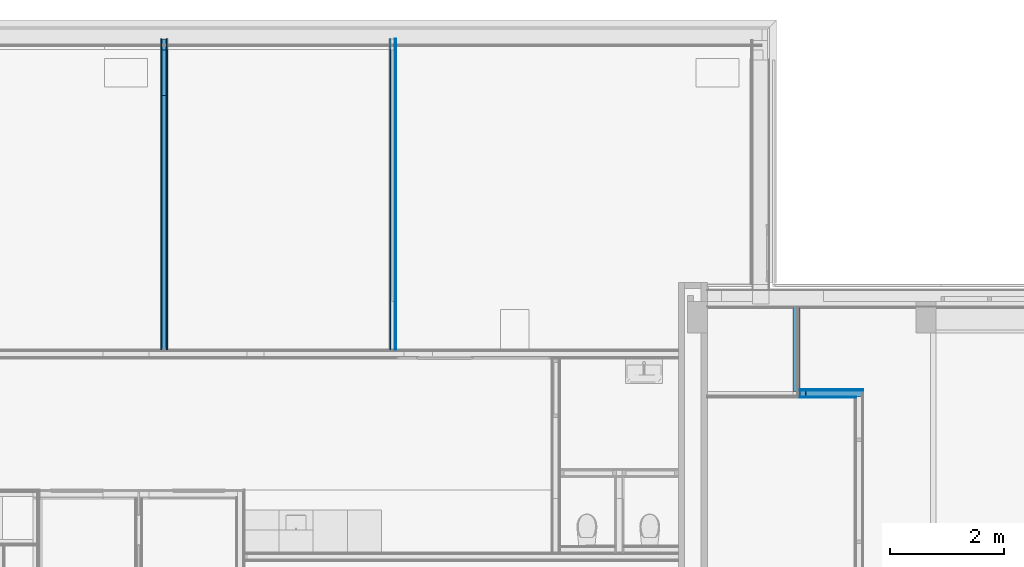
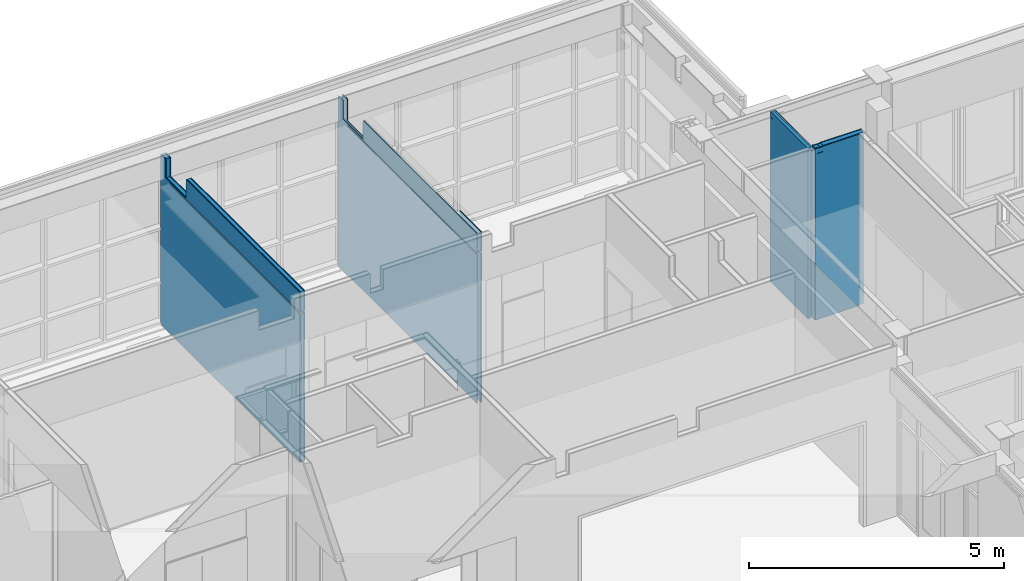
# One storey, part 51 of 109: 15 building element parts, 4 elements without a shape of their own.
"""IFC2X3 building model written with IfcOpenShell, lengths in millimetres."""

from ifc_helpers import new_model, entity, si_unit, converted_unit, derived_unit, money_unit, direction, frame, origin_with_axes, place, context, subcontext, project, spatial, faceted_brep, material, type_object, element, aggregate, save


model = new_model("IFC2X3")

# Units and contexts
model_context = context("Model", 3, precision=0.01, world=origin_with_axes(), true_north=direction((0.0, 1.0)))
body_context = subcontext(model_context, "Body", "Model", "MODEL_VIEW")
ifc_project = project(units=[si_unit("LENGTHUNIT", "METRE", prefix="MILLI"), si_unit("AREAUNIT", "SQUARE_METRE"), si_unit("VOLUMEUNIT", "CUBIC_METRE"), converted_unit("PLANEANGLEUNIT", "DEGREE", entity("IfcPlaneAngleMeasure", 0.0174532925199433), si_unit("PLANEANGLEUNIT", "RADIAN"), dimensions=[0, 0, 0, 0, 0, 0, 0]), money_unit("EUR"), converted_unit("TIMEUNIT", "Year", entity("IfcTimeMeasure", 31557600.0), si_unit("TIMEUNIT", "SECOND"), dimensions=[0, 0, 1, 0, 0, 0, 0]), si_unit("MASSUNIT", "GRAM", prefix="KILO"), si_unit("THERMODYNAMICTEMPERATUREUNIT", "DEGREE_CELSIUS"), si_unit("LUMINOUSINTENSITYUNIT", "LUMEN"), si_unit("ENERGYUNIT", "JOULE", prefix="MEGA"), derived_unit("THERMALCONDUCTANCEUNIT", [(si_unit("POWERUNIT", "WATT"), 1), (si_unit("LENGTHUNIT", "METRE"), -1), (si_unit("THERMODYNAMICTEMPERATUREUNIT", "KELVIN"), -1)]), derived_unit("SPECIFICHEATCAPACITYUNIT", [(si_unit("ENERGYUNIT", "JOULE"), 1), (si_unit("MASSUNIT", "GRAM", prefix="KILO"), -1), (si_unit("THERMODYNAMICTEMPERATUREUNIT", "KELVIN"), -1)]), derived_unit("MASSDENSITYUNIT", [(si_unit("MASSUNIT", "GRAM", prefix="KILO"), 1), (si_unit("VOLUMEUNIT", "CUBIC_METRE"), -1)])], contexts=[model_context])

# Site, building, storey
site_placement = place(None, origin_with_axes())
site = spatial("IfcSite", under=ifc_project, at=site_placement, Name="<site naam>", CompositionType="ELEMENT")
building_placement = place(site_placement, origin_with_axes())
building = spatial("IfcBuilding", under=site, at=building_placement, Name="<Naam gebouw>", CompositionType="ELEMENT")
storey_placement = place(building_placement, origin_with_axes())
storey = spatial("IfcBuildingStorey", under=building, at=storey_placement, Name="00 Begane grond", CompositionType="ELEMENT", Elevation=0.0)

# Wall, building element parts
wall_type_1 = type_object("IfcWallType", Name="MS-02 GF 125 ECO DGS/2.75.2.A 125", PredefinedType="NOTDEFINED")
wall_1_placement = place(storey_placement, frame((2666.666666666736, 24596.49775469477, 0.0), z_axis=(0.0, 0.0, 1.0), x_axis=(0.0, -1.0, 0.0)))
wall_1 = element("IfcWall", 1, at=wall_1_placement, inside=storey, type_object=wall_type_1, Name="22_Binnenwand_MS-02")
ifc_material_1 = material(Name="gipsplaat")
building_element_part_1_placement = place(wall_1_placement, origin_with_axes())
building_element_part_1 = element("IfcBuildingElementPart", 2, at=building_element_part_1_placement, material=ifc_material_1, Name="gipsplaat", context=body_context, shape_type="Brep", body=[
    faceted_brep([(196.4977546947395, 50.00000000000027, 4070.0), (196.4977546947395, 62.50000000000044, 4070.0), (0.0, 62.50000000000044, 4070.0), (0.0, 50.00000000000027, 4070.0), (196.4977546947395, 62.49999999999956, 3619.999999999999), (196.4977546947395, 50.00000000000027, 3619.999999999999), (996.4977546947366, 62.49999999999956, 3619.999999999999), (996.4977546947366, 62.50000000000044, 4070.0), (5446.497754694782, 62.5, 4070.0), (5446.497774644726, 62.5, 3600.0), (370.9977554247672, 62.49999999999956, 3600.0), (370.9977554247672, 62.49999999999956, 3560.0), (5446.497774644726, 62.5, 3560.0), (5446.497754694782, 62.49999999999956, 0.0), (0.0, 62.5, 0.0), (0.0, 49.99999999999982, 0.0), (5446.497754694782, 49.99999999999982, 0.0), (5446.497774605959, 50.00000000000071, 3560.0), (370.9977554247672, 50.00000000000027, 3560.0), (370.9977554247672, 50.00000000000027, 3600.0), (5446.497774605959, 49.99999999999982, 3600.0), (5446.497754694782, 49.99999999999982, 4070.0), (996.4977546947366, 50.00000000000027, 4070.0), (996.4977546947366, 50.00000000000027, 3619.999999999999)], [[[0, 1, 2, 3]], [[4, 1, 0, 5]], [[6, 7, 8, 9, 10, 11, 12, 13, 14, 2, 1, 4]], [[3, 2, 14, 15]], [[5, 0, 3, 15, 16, 17, 18, 19, 20, 21, 22, 23]], [[6, 4, 5, 23]], [[22, 7, 6, 23]], [[7, 22, 21, 8]], [[21, 20, 9, 8]], [[19, 10, 9, 20]], [[18, 11, 10, 19]], [[17, 12, 11, 18]], [[13, 12, 17, 16]], [[14, 13, 16, 15]]]),
])
building_element_part_2_placement = place(wall_1_placement, origin_with_axes())
building_element_part_2 = element("IfcBuildingElementPart", 3, at=building_element_part_2_placement, material=ifc_material_1, Name="gipsplaat", context=body_context, shape_type="Brep", body=[
    faceted_brep([(196.4977546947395, 37.50000000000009, 4070.0), (196.4977546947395, 50.00000000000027, 4070.0), (0.0, 50.00000000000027, 4070.0), (0.0, 37.50000000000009, 4070.0), (196.4977546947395, 50.00000000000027, 3619.999999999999), (196.4977546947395, 37.50000000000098, 3619.999999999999), (996.4977546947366, 50.00000000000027, 3619.999999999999), (996.4977546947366, 50.00000000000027, 4070.0), (5446.497754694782, 49.99999999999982, 4070.0), (5446.497774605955, 49.99999999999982, 3600.0), (370.9977554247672, 50.00000000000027, 3600.0), (370.9977554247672, 50.00000000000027, 3560.0), (5446.497774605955, 50.00000000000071, 3560.0), (5446.497754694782, 49.99999999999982, 0.0), (0.0, 49.99999999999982, 0.0), (0.0, 37.50000000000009, 0.0), (5446.497754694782, 37.49999999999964, 0.0), (5446.497774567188, 37.49999999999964, 3560.0), (370.9977554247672, 37.50000000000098, 3560.0), (370.9977554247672, 37.50000000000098, 3600.0), (5446.497774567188, 37.49999999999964, 3600.0), (5446.497754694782, 37.50000000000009, 4070.0), (996.4977546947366, 37.50000000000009, 4070.0), (996.4977546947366, 37.50000000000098, 3619.999999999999)], [[[0, 1, 2, 3]], [[4, 1, 0, 5]], [[6, 7, 8, 9, 10, 11, 12, 13, 14, 2, 1, 4]], [[3, 2, 14, 15]], [[5, 0, 3, 15, 16, 17, 18, 19, 20, 21, 22, 23]], [[6, 4, 5, 23]], [[22, 7, 6, 23]], [[7, 22, 21, 8]], [[21, 20, 9, 8]], [[19, 10, 9, 20]], [[18, 11, 10, 19]], [[17, 12, 11, 18]], [[13, 12, 17, 16]], [[14, 13, 16, 15]]]),
])
building_element_part_3_placement = place(wall_1_placement, origin_with_axes())
building_element_part_3 = element("IfcBuildingElementPart", 4, at=building_element_part_3_placement, material=ifc_material_1, Name="gipsplaat", context=body_context, shape_type="Brep", body=[
    faceted_brep([(196.4977546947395, -62.49999999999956, 4070.0), (196.4977546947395, -49.99999999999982, 4070.0), (0.0, -49.99999999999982, 4070.0), (0.0, -62.49999999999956, 4070.0), (196.4977546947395, -49.99999999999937, 3619.999999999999), (196.4977546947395, -62.50000000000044, 3619.999999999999), (996.4977546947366, -49.99999999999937, 3619.999999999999), (996.4977546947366, -49.99999999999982, 4070.0), (5446.497754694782, -49.99999999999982, 4070.0), (5446.497774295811, -49.99999999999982, 3600.0), (370.9977554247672, -49.99999999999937, 3600.0), (370.9977554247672, -49.99999999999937, 3560.0), (5446.497774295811, -50.00000000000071, 3560.0), (5446.497754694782, -50.00000000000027, 0.0), (0.0, -49.99999999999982, 0.0), (0.0, -62.5, 0.0), (5446.497754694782, -62.50000000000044, 0.0), (5446.497774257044, -62.5, 3560.0), (370.9977554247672, -62.50000000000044, 3560.0), (370.9977554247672, -62.50000000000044, 3600.0), (5446.497774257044, -62.5, 3600.0), (5446.497754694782, -62.5, 4070.0), (996.4977546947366, -62.49999999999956, 4070.0), (996.4977546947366, -62.50000000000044, 3619.999999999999)], [[[0, 1, 2, 3]], [[4, 1, 0, 5]], [[6, 7, 8, 9, 10, 11, 12, 13, 14, 2, 1, 4]], [[3, 2, 14, 15]], [[5, 0, 3, 15, 16, 17, 18, 19, 20, 21, 22, 23]], [[6, 4, 5, 23]], [[22, 7, 6, 23]], [[7, 22, 21, 8]], [[21, 20, 9, 8]], [[19, 10, 9, 20]], [[18, 11, 10, 19]], [[17, 12, 11, 18]], [[13, 12, 17, 16]], [[14, 13, 16, 15]]]),
])
building_element_part_4_placement = place(wall_1_placement, origin_with_axes())
building_element_part_4 = element("IfcBuildingElementPart", 5, at=building_element_part_4_placement, material=ifc_material_1, Name="gipsplaat", context=body_context, shape_type="Brep", body=[
    faceted_brep([(196.4977546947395, -49.99999999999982, 4070.0), (196.4977546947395, -37.49999999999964, 4070.0), (0.0, -37.49999999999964, 4070.0), (0.0, -49.99999999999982, 4070.0), (196.4977546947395, -37.50000000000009, 3619.999999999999), (196.4977546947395, -49.99999999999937, 3619.999999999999), (996.4977546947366, -37.50000000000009, 3619.999999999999), (996.4977546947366, -37.50000000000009, 4070.0), (5446.497754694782, -37.50000000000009, 4070.0), (5446.497774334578, -37.50000000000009, 3600.0), (370.9977554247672, -37.50000000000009, 3600.0), (370.9977554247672, -37.50000000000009, 3560.0), (5446.497774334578, -37.49999999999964, 3560.0), (5446.497754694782, -37.50000000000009, 0.0), (0.0, -37.50000000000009, 0.0), (0.0, -49.99999999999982, 0.0), (5446.497754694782, -50.00000000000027, 0.0), (5446.497774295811, -50.00000000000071, 3560.0), (370.9977554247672, -49.99999999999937, 3560.0), (370.9977554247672, -49.99999999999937, 3600.0), (5446.497774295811, -50.00000000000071, 3600.0), (5446.497754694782, -49.99999999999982, 4070.0), (996.4977546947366, -49.99999999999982, 4070.0), (996.4977546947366, -49.99999999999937, 3619.999999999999)], [[[0, 1, 2, 3]], [[4, 1, 0, 5]], [[6, 7, 8, 9, 10, 11, 12, 13, 14, 2, 1, 4]], [[3, 2, 14, 15]], [[5, 0, 3, 15, 16, 17, 18, 19, 20, 21, 22, 23]], [[6, 4, 5, 23]], [[22, 7, 6, 23]], [[7, 22, 21, 8]], [[21, 20, 9, 8]], [[19, 10, 9, 20]], [[18, 11, 10, 19]], [[17, 12, 11, 18]], [[13, 12, 17, 16]], [[14, 13, 16, 15]]]),
])
ifc_material_2 = material(Name="isolatie_steenwol LSW")
building_element_part_5_placement = place(wall_1_placement, origin_with_axes())
building_element_part_5 = element("IfcBuildingElementPart", 6, at=building_element_part_5_placement, material=ifc_material_2, Name="isolatie_steenwol LSW", context=body_context, shape_type="Brep", body=[
    faceted_brep([(196.4977546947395, -37.49999999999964, 4070.0), (196.4977546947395, 37.50000000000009, 4070.0), (0.0, 37.50000000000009, 4070.0), (0.0, -37.49999999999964, 4070.0), (196.4977546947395, 37.4999999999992, 3619.999999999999), (196.4977546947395, -37.50000000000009, 3619.999999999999), (996.4977546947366, 37.4999999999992, 3619.999999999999), (996.4977546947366, 37.50000000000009, 4070.0), (5446.497754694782, 37.50000000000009, 4070.0), (5446.497774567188, 37.50000000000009, 3600.0), (370.9977554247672, 37.4999999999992, 3600.0), (370.9977554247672, 37.4999999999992, 3560.0), (5446.497774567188, 37.49999999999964, 3560.0), (5446.497754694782, 37.49999999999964, 0.0), (0.0, 37.50000000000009, 0.0), (0.0, -37.50000000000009, 0.0), (5446.497754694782, -37.50000000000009, 0.0), (5446.497774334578, -37.49999999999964, 3560.0), (370.9977554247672, -37.50000000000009, 3560.0), (370.9977554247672, -37.50000000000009, 3600.0), (5446.497774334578, -37.49999999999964, 3600.0), (5446.497754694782, -37.50000000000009, 4070.0), (996.4977546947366, -37.50000000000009, 4070.0), (996.4977546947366, -37.50000000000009, 3619.999999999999)], [[[0, 1, 2, 3]], [[4, 1, 0, 5]], [[6, 7, 8, 9, 10, 11, 12, 13, 14, 2, 1, 4]], [[3, 2, 14, 15]], [[5, 0, 3, 15, 16, 17, 18, 19, 20, 21, 22, 23]], [[6, 4, 5, 23]], [[22, 7, 6, 23]], [[7, 22, 21, 8]], [[21, 20, 9, 8]], [[19, 10, 9, 20]], [[18, 11, 10, 19]], [[17, 12, 11, 18]], [[13, 12, 17, 16]], [[14, 13, 16, 15]]]),
])
aggregate(wall_1, [building_element_part_1, building_element_part_2, building_element_part_3, building_element_part_4, building_element_part_5])

wall_type_2 = type_object("IfcWallType", Name="MS-04 GF 138 V/100.3.A 113", PredefinedType="NOTDEFINED")
wall_2_placement = place(storey_placement, frame((13675.00000000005, 18423.09602261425, 0.0), z_axis=(0.0, 0.0, 1.0), x_axis=(0.0, 1.0, 0.0)))
wall_2 = element("IfcWall", 7, at=wall_2_placement, inside=storey, type_object=wall_type_2, Name="22_Binnenwand_MS-04")
building_element_part_6_placement = place(wall_2_placement, origin_with_axes())
building_element_part_6 = element("IfcBuildingElementPart", 8, at=building_element_part_6_placement, material=ifc_material_2, Name="isolatie_steenwol LSW", context=body_context, shape_type="Brep", body=[
    faceted_brep([(1476.90398538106, 0.0, 3928.999844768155), (1476.90398538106, -74.99999999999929, 3928.999844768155), (1476.90398538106, -74.99999999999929, 0.0), (1476.90398538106, 0.0, 0.0), (1381.505246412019, -74.99999999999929, 3928.999844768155), (1381.505246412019, 0.0, 3928.999844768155), (1468.505256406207, -74.99999999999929, 3938.499955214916), (1468.505256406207, -74.99999999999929, 4070.0), (0.0, -74.99999999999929, 4070.0), (0.0, -74.99999999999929, 0.0), (1381.505248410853, -74.99999999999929, 3938.499955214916), (0.0, 0.0, 0.0), (0.0, 0.0, 4070.0), (1468.505256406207, 0.0, 4070.0), (1468.505256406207, 0.0, 3938.499955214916), (1381.505248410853, 0.0, 3938.499955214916)], [[[0, 1, 2, 3]], [[4, 1, 0, 5]], [[6, 7, 8, 9, 2, 1, 4, 10]], [[11, 3, 2, 9]], [[5, 0, 3, 11, 12, 13, 14, 15]], [[10, 4, 5, 15]], [[13, 7, 6, 14]], [[7, 13, 12, 8]], [[12, 11, 9, 8]], [[6, 10, 15, 14]]]),
    faceted_brep([(1474.505256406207, -74.99999999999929, 4070.0), (1474.505256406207, -74.99999999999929, 3938.499955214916), (1476.90398538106, -74.99999999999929, 3938.499955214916), (1476.90398538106, -74.99999999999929, 4070.0), (1474.505256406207, 0.0, 4070.0), (1474.505256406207, 0.0, 3938.499955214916), (1476.90398538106, 0.0, 3938.499955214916), (1476.90398538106, 0.0, 4070.0)], [[[0, 1, 2, 3]], [[1, 0, 4, 5]], [[6, 2, 1, 5]], [[2, 6, 7, 3]], [[4, 0, 3, 7]], [[5, 4, 7, 6]]]),
])
building_element_part_7_placement = place(wall_2_placement, origin_with_axes())
building_element_part_7 = element("IfcBuildingElementPart", 9, at=building_element_part_7_placement, material=ifc_material_1, Name="gipsplaat", context=body_context, shape_type="Brep", body=[
    faceted_brep([(1476.90398538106, -99.99999999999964, 3928.999844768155), (1476.90398538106, -112.4999999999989, 3928.999844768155), (1476.90398538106, -112.5000000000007, 0.0), (1476.90398538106, -99.99999999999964, 0.0), (1381.505246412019, -112.5000000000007, 3928.999844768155), (1381.505246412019, -99.99999999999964, 3928.999844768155), (1468.505256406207, -112.5000000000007, 3938.499955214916), (1468.505256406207, -112.4999999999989, 4070.0), (-100.0000000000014, -112.4999999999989, 4070.0), (-100.0000000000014, -112.5000000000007, 0.0), (1381.505248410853, -112.5000000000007, 3938.499955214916), (1460.79155872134, -112.5000000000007, 2400.0), (37.50003199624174, -112.5000000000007, 2400.0), (37.50003199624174, -112.5000000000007, 2440.0), (1460.79155872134, -112.5000000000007, 2440.0), (-100.0000000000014, -99.99999999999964, 0.0), (-100.0000000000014, -99.99999999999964, 4070.0), (1468.505256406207, -99.99999999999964, 4070.0), (1468.505256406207, -99.99999999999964, 3938.499955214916), (1381.505248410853, -99.99999999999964, 3938.499955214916), (37.50003199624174, -100.0000664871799, 2440.0), (37.50003199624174, -100.0000664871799, 2400.0), (1460.790869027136, -100.0000664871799, 2400.0), (1460.790869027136, -100.0000664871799, 2440.0)], [[[0, 1, 2, 3]], [[4, 1, 0, 5]], [[6, 7, 8, 9, 2, 1, 4, 10], [11, 12, 13, 14]], [[9, 15, 3, 2]], [[5, 0, 3, 15, 16, 17, 18, 19], [20, 21, 22, 23]], [[10, 4, 5, 19]], [[17, 7, 6, 18]], [[7, 17, 16, 8]], [[8, 16, 15, 9]], [[6, 10, 19, 18]], [[21, 12, 11, 22]], [[20, 13, 12, 21]], [[23, 14, 13, 20]], [[22, 11, 14, 23]]]),
    faceted_brep([(1474.505256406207, -112.4999999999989, 4070.0), (1474.505256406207, -112.5000000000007, 3938.499955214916), (1476.90398538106, -112.4999999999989, 3938.499955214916), (1476.90398538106, -112.4999999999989, 4070.0), (1474.505256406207, -99.99999999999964, 4070.0), (1474.505256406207, -99.99999999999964, 3938.499955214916), (1476.90398538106, -99.99999999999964, 3938.499955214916), (1476.90398538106, -99.99999999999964, 4070.0)], [[[0, 1, 2, 3]], [[1, 0, 4, 5]], [[6, 2, 1, 5]], [[2, 6, 7, 3]], [[4, 0, 3, 7]], [[5, 4, 7, 6]]]),
])
aggregate(wall_2, [building_element_part_6, building_element_part_7])

wall_3_placement = place(storey_placement, frame((6666.666666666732, 24596.49775469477, 0.0), z_axis=(0.0, 0.0, 1.0), x_axis=(0.0, -1.0, 0.0)))
wall_3 = element("IfcWall", 10, at=wall_3_placement, inside=storey, type_object=wall_type_1, Name="22_Binnenwand_MS-02")
building_element_part_8_placement = place(wall_3_placement, origin_with_axes())
building_element_part_8 = element("IfcBuildingElementPart", 11, at=building_element_part_8_placement, material=ifc_material_1, Name="gipsplaat", context=body_context, shape_type="Brep", body=[
    faceted_brep([(4596.497754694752, 62.49999999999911, 3600.0), (4596.497754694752, 62.49999999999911, 4070.0), (5446.497754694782, 62.49999999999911, 4070.0), (5446.497787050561, 62.49999999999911, 3600.0), (4596.497754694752, 49.99999999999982, 4070.0), (4596.497754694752, 49.99999999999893, 3600.0), (5446.497754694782, 49.99999999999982, 4070.0), (5446.497787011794, 49.99999999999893, 3600.0)], [[[0, 1, 2, 3]], [[4, 1, 0, 5]], [[1, 4, 6, 2]], [[6, 7, 3, 2]], [[5, 0, 3, 7]], [[4, 5, 7, 6]]]),
    faceted_brep([(196.4977546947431, 49.99999999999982, 4070.0), (196.4977546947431, 62.5, 4070.0), (0.0, 62.5, 4070.0), (0.0, 49.99999999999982, 4070.0), (196.4977546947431, 62.5, 3540.0), (196.4977546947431, 50.00000000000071, 3540.0), (4596.497754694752, 62.49999999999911, 3540.0), (4596.497754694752, 62.49999999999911, 3560.0), (5446.497787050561, 62.49999999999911, 3560.0), (5446.497754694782, 62.49999999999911, 0.0), (0.0, 62.5, 0.0), (0.0, 49.99999999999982, 0.0), (5446.497754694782, 49.99999999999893, 0.0), (5446.497787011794, 50.00000000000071, 3560.0), (4596.497754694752, 50.00000000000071, 3560.0), (4596.497754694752, 49.99999999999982, 3540.0)], [[[0, 1, 2, 3]], [[4, 1, 0, 5]], [[6, 7, 8, 9, 10, 2, 1, 4]], [[3, 2, 10, 11]], [[5, 0, 3, 11, 12, 13, 14, 15]], [[6, 4, 5, 15]], [[14, 7, 6, 15]], [[7, 14, 13, 8]], [[9, 8, 13, 12]], [[10, 9, 12, 11]]]),
])
building_element_part_9_placement = place(wall_3_placement, origin_with_axes())
building_element_part_9 = element("IfcBuildingElementPart", 12, at=building_element_part_9_placement, material=ifc_material_1, Name="gipsplaat", context=body_context, shape_type="Brep", body=[
    faceted_brep([(196.4977546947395, -49.99999999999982, 4070.0), (196.4977546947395, -37.49999999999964, 4070.0), (0.0, -37.49999999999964, 4070.0), (0.0, -49.99999999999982, 4070.0), (196.4977546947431, -37.49999999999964, 3619.999999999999), (196.4977546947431, -49.99999999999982, 3619.999999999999), (996.4977546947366, -37.49999999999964, 3619.999999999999), (996.4977546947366, -37.49999999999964, 4070.0), (5446.497754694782, -37.50000000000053, 4070.0), (5446.497786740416, -37.50000000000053, 3600.0), (370.9977554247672, -37.49999999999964, 3600.0), (370.9977554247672, -37.49999999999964, 3560.0), (5446.497786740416, -37.50000000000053, 3560.0), (5446.497754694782, -37.50000000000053, 0.0), (0.0, -37.49999999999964, 0.0), (0.0, -49.99999999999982, 0.0), (5446.497754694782, -50.00000000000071, 0.0), (5446.497786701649, -50.00000000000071, 3560.0), (370.9977554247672, -49.99999999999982, 3560.0), (370.9977554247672, -49.99999999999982, 3600.0), (5446.497786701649, -49.99999999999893, 3600.0), (5446.497754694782, -50.00000000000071, 4070.0), (996.4977546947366, -49.99999999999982, 4070.0), (996.4977546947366, -50.00000000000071, 3619.999999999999)], [[[0, 1, 2, 3]], [[4, 1, 0, 5]], [[6, 7, 8, 9, 10, 11, 12, 13, 14, 2, 1, 4]], [[3, 2, 14, 15]], [[5, 0, 3, 15, 16, 17, 18, 19, 20, 21, 22, 23]], [[6, 4, 5, 23]], [[22, 7, 6, 23]], [[7, 22, 21, 8]], [[21, 20, 9, 8]], [[19, 10, 9, 20]], [[18, 11, 10, 19]], [[17, 12, 11, 18]], [[13, 12, 17, 16]], [[14, 13, 16, 15]]]),
])
building_element_part_10_placement = place(wall_3_placement, origin_with_axes())
building_element_part_10 = element("IfcBuildingElementPart", 13, at=building_element_part_10_placement, material=ifc_material_1, Name="gipsplaat", context=body_context, shape_type="Brep", body=[
    faceted_brep([(4596.497754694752, 49.99999999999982, 3600.0), (4596.497754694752, 49.99999999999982, 4070.0), (5446.497754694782, 49.99999999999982, 4070.0), (5446.497787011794, 49.99999999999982, 3600.0), (4596.497754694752, 37.49999999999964, 4070.0), (4596.497754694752, 37.49999999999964, 3600.0), (5446.497754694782, 37.49999999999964, 4070.0), (5446.497786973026, 37.49999999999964, 3600.0)], [[[0, 1, 2, 3]], [[4, 1, 0, 5]], [[1, 4, 6, 2]], [[6, 7, 3, 2]], [[5, 0, 3, 7]], [[4, 5, 7, 6]]]),
    faceted_brep([(196.4977546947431, 37.50000000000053, 4070.0), (196.4977546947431, 49.99999999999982, 4070.0), (0.0, 49.99999999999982, 4070.0), (0.0, 37.50000000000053, 4070.0), (196.4977546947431, 50.00000000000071, 3540.0), (196.4977546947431, 37.50000000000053, 3540.0), (4596.497754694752, 49.99999999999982, 3540.0), (4596.497754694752, 49.99999999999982, 3560.0), (5446.497787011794, 49.99999999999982, 3560.0), (5446.497754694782, 49.99999999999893, 0.0), (0.0, 49.99999999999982, 0.0), (0.0, 37.49999999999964, 0.0), (5446.497754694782, 37.49999999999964, 0.0), (5446.497786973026, 37.49999999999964, 3560.0), (4596.497754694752, 37.49999999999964, 3560.0), (4596.497754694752, 37.49999999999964, 3540.0)], [[[0, 1, 2, 3]], [[4, 1, 0, 5]], [[6, 7, 8, 9, 10, 2, 1, 4]], [[3, 2, 10, 11]], [[5, 0, 3, 11, 12, 13, 14, 15]], [[6, 4, 5, 15]], [[14, 7, 6, 15]], [[7, 14, 13, 8]], [[9, 8, 13, 12]], [[10, 9, 12, 11]]]),
])
aggregate(wall_3, [building_element_part_8, building_element_part_9, building_element_part_10])

wall_type_3 = type_object("IfcWallType", Name="MS-01 GF 150 ECO DGS/2.100.2.A 150", PredefinedType="NOTDEFINED")
wall_4_placement = place(storey_placement, frame((13787.50000000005, 18310.59602261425, 0.0), z_axis=(0.0, 0.0, 1.0), x_axis=(1.0, 0.0, 0.0)))
wall_4 = element("IfcWall", 14, at=wall_4_placement, inside=storey, type_object=wall_type_3, Name="22_Binnenwand_MS-01")
building_element_part_11_placement = place(wall_4_placement, origin_with_axes())
building_element_part_11 = element("IfcBuildingElementPart", 15, at=building_element_part_11_placement, material=ifc_material_1, Name="gipsplaat", context=body_context, shape_type="Brep", body=[
    faceted_brep([(110.2499999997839, 149.9999999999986, 3975.498786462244), (110.2499999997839, 149.9999999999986, 4091.49999999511), (177.5000000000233, 149.9999999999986, 4091.49999999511), (177.4999999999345, 149.9999999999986, 4100.000004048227), (1117.45500626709, 149.9999999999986, 4100.0), (1117.45500626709, 149.9999999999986, 0.0), (0.0, 149.9999999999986, 0.0), (0.0, 149.9999999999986, 4100.0), (37.49999999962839, 149.9999999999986, 4100.000004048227), (37.49999999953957, 149.9999999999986, 4091.49999999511), (104.7499999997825, 149.9999999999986, 4091.49999999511), (104.7499999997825, 149.9999999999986, 3975.498786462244), (37.49999999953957, 149.9999999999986, 3975.498786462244), (37.49999999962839, 149.9999999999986, 3966.998786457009), (177.4999999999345, 149.9999999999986, 3966.998786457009), (177.5000000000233, 149.9999999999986, 3975.498786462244), (110.2499999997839, 137.4999999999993, 4091.49999999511), (110.2499999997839, 137.4999999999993, 3975.498786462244), (177.5000000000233, 137.4999999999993, 4091.49999999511), (177.4999999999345, 137.4999999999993, 4100.00000395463), (1117.45500626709, 137.4999999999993, 4100.0), (1117.45500626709, 137.4999999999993, 0.0), (0.0, 137.4999999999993, 0.0), (0.0, 137.4999999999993, 4100.0), (37.49999999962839, 137.4999999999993, 4100.00000395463), (37.49999999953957, 137.4999999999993, 4091.49999999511), (104.7499999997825, 137.4999999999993, 4091.49999999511), (104.7499999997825, 137.4999999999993, 3975.498786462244), (37.49999999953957, 137.4999999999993, 3975.498786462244), (37.49999999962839, 137.4999999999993, 3966.998786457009), (177.4999999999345, 137.4999999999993, 3966.998786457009), (177.5000000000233, 137.4999999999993, 3975.498786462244)], [[[0, 1, 2, 3, 4, 5, 6, 7, 8, 9, 10, 11, 12, 13, 14, 15]], [[16, 1, 0, 17]], [[18, 2, 1, 16]], [[18, 19, 3, 2]], [[4, 3, 19, 20]], [[5, 4, 20, 21]], [[6, 5, 21, 22]], [[6, 22, 23, 7]], [[23, 24, 8, 7]], [[25, 9, 8, 24]], [[26, 10, 9, 25]], [[27, 11, 10, 26]], [[28, 12, 11, 27]], [[29, 13, 12, 28]], [[30, 14, 13, 29]], [[31, 15, 14, 30]], [[17, 0, 15, 31]], [[26, 25, 24, 23, 22, 21, 20, 19, 18, 16, 17, 31, 30, 29, 28, 27]]]),
])
building_element_part_12_placement = place(wall_4_placement, origin_with_axes())
building_element_part_12 = element("IfcBuildingElementPart", 16, at=building_element_part_12_placement, material=ifc_material_1, Name="gipsplaat", context=body_context, shape_type="Brep", body=[
    faceted_brep([(110.2499999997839, 137.4999999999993, 3975.498786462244), (110.2499999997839, 137.4999999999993, 4091.49999999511), (177.5000000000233, 137.4999999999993, 4091.49999999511), (177.4999999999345, 137.4999999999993, 4100.00000395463), (1104.955006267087, 137.4999999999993, 4100.0), (1104.955006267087, 137.4999999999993, 0.0), (0.0, 137.4999999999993, 0.0), (0.0, 137.4999999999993, 4100.0), (37.49999999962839, 137.4999999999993, 4100.00000395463), (37.49999999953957, 137.4999999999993, 4091.49999999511), (104.7499999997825, 137.4999999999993, 4091.49999999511), (104.7499999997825, 137.4999999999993, 3975.498786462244), (37.49999999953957, 137.4999999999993, 3975.498786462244), (37.49999999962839, 137.4999999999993, 3966.998786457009), (177.4999999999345, 137.4999999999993, 3966.998786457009), (177.5000000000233, 137.4999999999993, 3975.498786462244), (110.2499999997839, 125.0, 4091.49999999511), (110.2499999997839, 125.0, 3975.498786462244), (177.5000000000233, 125.0, 4091.49999999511), (177.4999999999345, 125.0, 4100.000003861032), (1104.955006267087, 125.0, 4100.0), (1104.955006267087, 125.0, 0.0), (0.0, 125.0, 0.0), (0.0, 125.0, 4100.0), (37.49999999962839, 125.0, 4100.000003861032), (37.49999999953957, 125.0, 4091.49999999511), (104.7499999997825, 125.0, 4091.49999999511), (104.7499999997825, 125.0, 3975.498786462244), (37.49999999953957, 125.0, 3975.498786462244), (37.49999999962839, 125.0, 3966.998786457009), (177.4999999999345, 125.0, 3966.998786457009), (177.5000000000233, 125.0, 3975.498786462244)], [[[0, 1, 2, 3, 4, 5, 6, 7, 8, 9, 10, 11, 12, 13, 14, 15]], [[16, 1, 0, 17]], [[18, 2, 1, 16]], [[18, 19, 3, 2]], [[4, 3, 19, 20]], [[5, 4, 20, 21]], [[6, 5, 21, 22]], [[6, 22, 23, 7]], [[23, 24, 8, 7]], [[25, 9, 8, 24]], [[26, 10, 9, 25]], [[27, 11, 10, 26]], [[28, 12, 11, 27]], [[29, 13, 12, 28]], [[30, 14, 13, 29]], [[31, 15, 14, 30]], [[17, 0, 15, 31]], [[26, 25, 24, 23, 22, 21, 20, 19, 18, 16, 17, 31, 30, 29, 28, 27]]]),
])
building_element_part_13_placement = place(wall_4_placement, origin_with_axes())
building_element_part_13 = element("IfcBuildingElementPart", 17, at=building_element_part_13_placement, material=ifc_material_2, Name="isolatie_steenwol LSW", context=body_context, shape_type="Brep", body=[
    faceted_brep([(110.2499999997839, 125.0, 3975.498786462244), (110.2499999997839, 125.0, 4091.49999999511), (177.5000000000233, 125.0, 4091.49999999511), (177.4999999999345, 125.0, 4100.000003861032), (1092.455006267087, 125.0, 4100.0), (1092.455006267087, 125.0, 0.0), (0.0, 125.0, 0.0), (0.0, 125.0, 4100.0), (37.49999999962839, 125.0, 4100.000003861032), (37.49999999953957, 125.0, 4091.49999999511), (104.7499999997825, 125.0, 4091.49999999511), (104.7499999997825, 125.0, 3975.498786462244), (37.49999999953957, 125.0, 3975.498786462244), (37.49999999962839, 125.0, 3966.998786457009), (177.4999999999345, 125.0, 3966.998786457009), (177.5000000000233, 125.0, 3975.498786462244), (110.2499999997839, 24.99999999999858, 4091.49999999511), (110.2499999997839, 24.99999999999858, 3975.498786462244), (177.5000000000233, 24.99999999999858, 4091.49999999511), (177.4999999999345, 24.99999999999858, 4100.000003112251), (1092.455006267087, 24.99999999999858, 4100.0), (1092.455006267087, 24.99999999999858, 0.0), (0.0, 24.99999999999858, 0.0), (0.0, 24.99999999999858, 4100.0), (37.49999999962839, 24.99999999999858, 4100.000003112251), (37.49999999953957, 24.99999999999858, 4091.49999999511), (104.7499999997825, 24.99999999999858, 4091.49999999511), (104.7499999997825, 24.99999999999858, 3975.498786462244), (37.49999999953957, 24.99999999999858, 3975.498786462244), (37.49999999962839, 24.99999999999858, 3966.998786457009), (177.4999999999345, 24.99999999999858, 3966.998786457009), (177.5000000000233, 24.99999999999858, 3975.498786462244)], [[[0, 1, 2, 3, 4, 5, 6, 7, 8, 9, 10, 11, 12, 13, 14, 15]], [[16, 1, 0, 17]], [[18, 2, 1, 16]], [[18, 19, 3, 2]], [[4, 3, 19, 20]], [[5, 4, 20, 21]], [[6, 5, 21, 22]], [[6, 22, 23, 7]], [[23, 24, 8, 7]], [[25, 9, 8, 24]], [[26, 10, 9, 25]], [[27, 11, 10, 26]], [[28, 12, 11, 27]], [[29, 13, 12, 28]], [[30, 14, 13, 29]], [[31, 15, 14, 30]], [[17, 0, 15, 31]], [[26, 25, 24, 23, 22, 21, 20, 19, 18, 16, 17, 31, 30, 29, 28, 27]]]),
])
building_element_part_14_placement = place(wall_4_placement, origin_with_axes())
building_element_part_14 = element("IfcBuildingElementPart", 18, at=building_element_part_14_placement, material=ifc_material_1, Name="gipsplaat", context=body_context, shape_type="Brep", body=[
    faceted_brep([(110.2499999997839, 12.49999999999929, 3975.498786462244), (110.2499999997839, 12.49999999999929, 4091.49999999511), (177.5000000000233, 12.49999999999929, 4091.49999999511), (177.4999999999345, 12.49999999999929, 4100.000003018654), (979.9550062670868, 12.49999999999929, 4100.0), (979.9550062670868, 12.49999999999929, 0.0), (0.0, 12.49999999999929, 0.0), (0.0, 12.49999999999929, 4100.0), (37.49999999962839, 12.49999999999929, 4100.000003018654), (37.49999999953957, 12.49999999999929, 4091.49999999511), (104.7499999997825, 12.49999999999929, 4091.49999999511), (104.7499999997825, 12.49999999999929, 3975.498786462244), (37.49999999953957, 12.49999999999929, 3975.498786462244), (37.49999999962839, 12.49999999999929, 3966.998786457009), (177.4999999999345, 12.49999999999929, 3966.998786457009), (177.5000000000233, 12.49999999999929, 3975.498786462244), (110.2499999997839, 0.0, 4091.49999999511), (110.2499999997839, 0.0, 3975.498786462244), (177.5000000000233, 0.0, 4091.49999999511), (177.4999999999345, 0.0, 4100.000002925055), (979.9550062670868, 0.0, 4100.0), (979.9550062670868, 0.0, 0.0), (0.0, 0.0, 0.0), (0.0, 0.0, 4100.0), (37.49999999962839, 0.0, 4100.000002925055), (37.49999999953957, 0.0, 4091.49999999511), (104.7499999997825, 0.0, 4091.49999999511), (104.7499999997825, 0.0, 3975.498786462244), (37.49999999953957, 0.0, 3975.498786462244), (37.49999999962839, 0.0, 3966.998786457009), (177.4999999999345, 0.0, 3966.998786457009), (177.5000000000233, 0.0, 3975.498786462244)], [[[0, 1, 2, 3, 4, 5, 6, 7, 8, 9, 10, 11, 12, 13, 14, 15]], [[16, 1, 0, 17]], [[18, 2, 1, 16]], [[18, 19, 3, 2]], [[4, 3, 19, 20]], [[5, 4, 20, 21]], [[6, 5, 21, 22]], [[6, 22, 23, 7]], [[23, 24, 8, 7]], [[25, 9, 8, 24]], [[26, 10, 9, 25]], [[27, 11, 10, 26]], [[28, 12, 11, 27]], [[29, 13, 12, 28]], [[30, 14, 13, 29]], [[31, 15, 14, 30]], [[17, 0, 15, 31]], [[26, 25, 24, 23, 22, 21, 20, 19, 18, 16, 17, 31, 30, 29, 28, 27]]]),
])
building_element_part_15_placement = place(wall_4_placement, origin_with_axes())
building_element_part_15 = element("IfcBuildingElementPart", 19, at=building_element_part_15_placement, material=ifc_material_1, Name="gipsplaat", context=body_context, shape_type="Brep", body=[
    faceted_brep([(110.2499999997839, 24.99999999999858, 3975.498786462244), (110.2499999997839, 24.99999999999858, 4091.49999999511), (177.5000000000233, 24.99999999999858, 4091.49999999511), (177.4999999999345, 24.99999999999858, 4100.000003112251), (992.4550062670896, 24.99999999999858, 4100.0), (992.4550062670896, 24.99999999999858, 0.0), (0.0, 24.99999999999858, 0.0), (0.0, 24.99999999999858, 4100.0), (37.49999999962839, 24.99999999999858, 4100.000003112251), (37.49999999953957, 24.99999999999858, 4091.49999999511), (104.7499999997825, 24.99999999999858, 4091.49999999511), (104.7499999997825, 24.99999999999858, 3975.498786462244), (37.49999999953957, 24.99999999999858, 3975.498786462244), (37.49999999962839, 24.99999999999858, 3966.998786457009), (177.4999999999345, 24.99999999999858, 3966.998786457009), (177.5000000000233, 24.99999999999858, 3975.498786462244), (110.2499999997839, 12.49999999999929, 4091.49999999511), (110.2499999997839, 12.49999999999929, 3975.498786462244), (177.5000000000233, 12.49999999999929, 4091.49999999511), (177.4999999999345, 12.49999999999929, 4100.000003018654), (992.4550062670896, 12.49999999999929, 4100.0), (992.4550062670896, 12.49999999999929, 0.0), (0.0, 12.49999999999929, 0.0), (0.0, 12.49999999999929, 4100.0), (37.49999999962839, 12.49999999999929, 4100.000003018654), (37.49999999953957, 12.49999999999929, 4091.49999999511), (104.7499999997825, 12.49999999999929, 4091.49999999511), (104.7499999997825, 12.49999999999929, 3975.498786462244), (37.49999999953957, 12.49999999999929, 3975.498786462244), (37.49999999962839, 12.49999999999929, 3966.998786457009), (177.4999999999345, 12.49999999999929, 3966.998786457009), (177.5000000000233, 12.49999999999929, 3975.498786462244)], [[[0, 1, 2, 3, 4, 5, 6, 7, 8, 9, 10, 11, 12, 13, 14, 15]], [[16, 1, 0, 17]], [[18, 2, 1, 16]], [[18, 19, 3, 2]], [[4, 3, 19, 20]], [[5, 4, 20, 21]], [[6, 5, 21, 22]], [[6, 22, 23, 7]], [[23, 24, 8, 7]], [[25, 9, 8, 24]], [[26, 10, 9, 25]], [[27, 11, 10, 26]], [[28, 12, 11, 27]], [[29, 13, 12, 28]], [[30, 14, 13, 29]], [[31, 15, 14, 30]], [[17, 0, 15, 31]], [[26, 25, 24, 23, 22, 21, 20, 19, 18, 16, 17, 31, 30, 29, 28, 27]]]),
])
aggregate(wall_4, [building_element_part_11, building_element_part_12, building_element_part_13, building_element_part_14, building_element_part_15])

save(model, "model.ifc")
